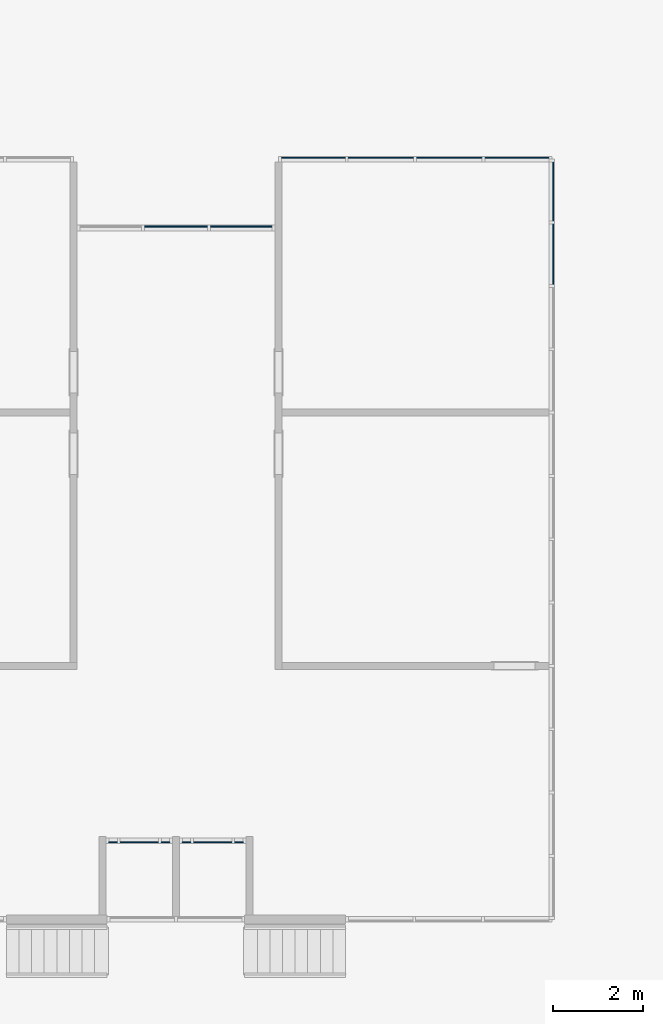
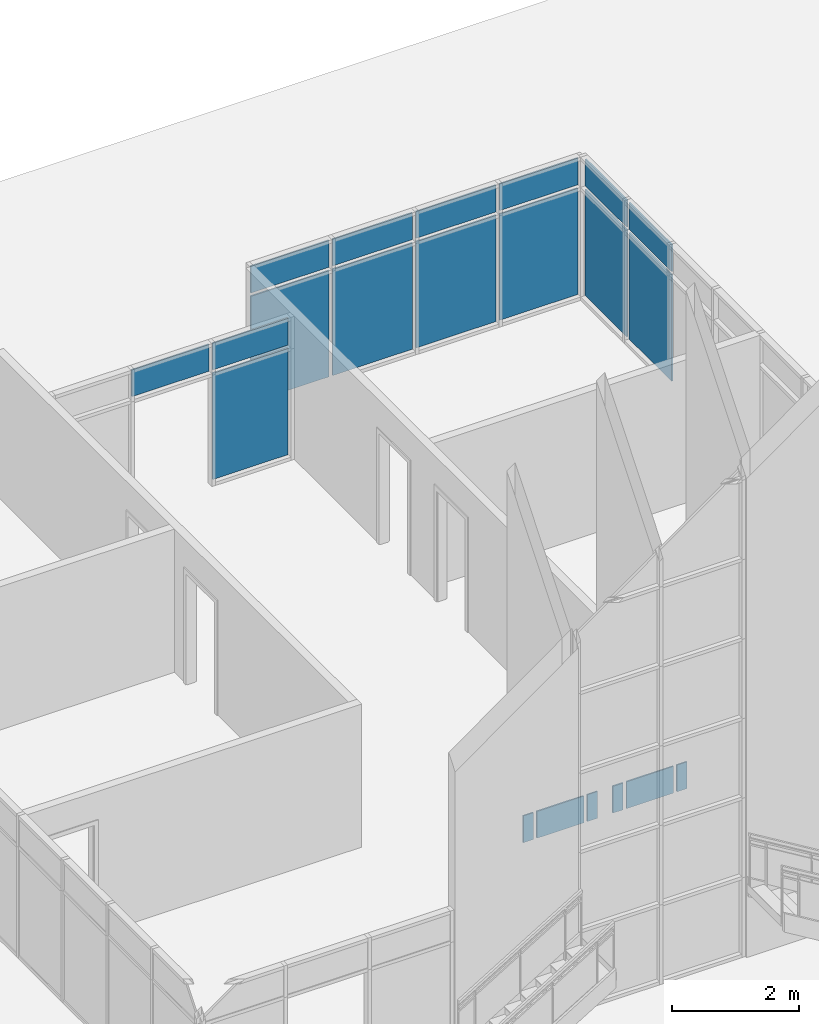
# One storey, part 9 of 12: 21 plates, 5 elements without a shape of their own.
"""IFC2X3 building model written with IfcOpenShell, lengths in feet."""

from ifc_helpers import new_model, entity, si_unit, converted_unit, derived_unit, direction, frame, frame_2d, origin, place, context, subcontext, project, spatial, rectangle, extrude, source, transform, mapped, material, layer, layer_set, layer_usage, type_object, type_shapes, element, aggregate, save


model = new_model("IFC2X3")

# Units and contexts
model_context = context("Model", 3, precision=0.0001, world=origin(), true_north=direction((6.12303176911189e-17, 1.0)))
body_context = subcontext(model_context, "Body", "Model", "MODEL_VIEW")
ifc_project = project(units=[converted_unit("LENGTHUNIT", "FOOT", entity("IfcRatioMeasure", 0.3048), si_unit("LENGTHUNIT", "METRE"), dimensions=[1, 0, 0, 0, 0, 0, 0]), converted_unit("AREAUNIT", "SQUARE FOOT", entity("IfcRatioMeasure", 0.09290304), si_unit("AREAUNIT", "SQUARE_METRE"), dimensions=[2, 0, 0, 0, 0, 0, 0]), converted_unit("VOLUMEUNIT", "CUBIC FOOT", entity("IfcRatioMeasure", 0.028316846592), si_unit("VOLUMEUNIT", "CUBIC_METRE"), dimensions=[3, 0, 0, 0, 0, 0, 0]), converted_unit("PLANEANGLEUNIT", "DEGREE", entity("IfcRatioMeasure", 0.0174532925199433), si_unit("PLANEANGLEUNIT", "RADIAN"), dimensions=[0, 0, 0, 0, 0, 0, 0]), si_unit("MASSUNIT", "GRAM", prefix="KILO"), derived_unit("MASSDENSITYUNIT", [(si_unit("MASSUNIT", "GRAM", prefix="KILO"), 1), (si_unit("LENGTHUNIT", "METRE"), -3)]), si_unit("TIMEUNIT", "SECOND"), si_unit("FREQUENCYUNIT", "HERTZ"), si_unit("THERMODYNAMICTEMPERATUREUNIT", "DEGREE_CELSIUS"), derived_unit("THERMALTRANSMITTANCEUNIT", [(si_unit("MASSUNIT", "GRAM", prefix="KILO"), 1), (si_unit("THERMODYNAMICTEMPERATUREUNIT", "KELVIN"), -1), (si_unit("TIMEUNIT", "SECOND"), -3)]), derived_unit("VOLUMETRICFLOWRATEUNIT", [(si_unit("LENGTHUNIT", "METRE"), 3), (si_unit("TIMEUNIT", "SECOND"), -1)]), si_unit("ELECTRICCURRENTUNIT", "AMPERE"), si_unit("ELECTRICVOLTAGEUNIT", "VOLT"), si_unit("POWERUNIT", "WATT"), si_unit("FORCEUNIT", "NEWTON"), si_unit("ILLUMINANCEUNIT", "LUX"), si_unit("LUMINOUSFLUXUNIT", "LUMEN"), si_unit("LUMINOUSINTENSITYUNIT", "CANDELA"), derived_unit("USERDEFINED", [(si_unit("MASSUNIT", "GRAM", prefix="KILO"), -1), (si_unit("LENGTHUNIT", "METRE"), -2), (si_unit("TIMEUNIT", "SECOND"), 3), (si_unit("LUMINOUSFLUXUNIT", "LUMEN"), 1)]), derived_unit("LINEARVELOCITYUNIT", [(si_unit("LENGTHUNIT", "METRE"), 1), (si_unit("TIMEUNIT", "SECOND"), -1)]), si_unit("PRESSUREUNIT", "PASCAL"), derived_unit("USERDEFINED", [(si_unit("LENGTHUNIT", "METRE"), -2), (si_unit("MASSUNIT", "GRAM", prefix="KILO"), 1), (si_unit("TIMEUNIT", "SECOND"), -2)])], contexts=[model_context])

# Site, building, storey
site_placement = place(None, origin())
site = spatial("IfcSite", under=ifc_project, at=site_placement, Name="Default", CompositionType="ELEMENT")
building_placement = place(site_placement, origin())
building = spatial("IfcBuilding", under=site, at=building_placement, CompositionType="ELEMENT")
storey_placement = place(building_placement, origin())
storey = spatial("IfcBuildingStorey", under=building, at=storey_placement, Name="Level 1", CompositionType="ELEMENT", Elevation=0.0)

# Curtain wall, plates
curtain_wall_type = type_object("IfcCurtainWallType", Name="Curtain Wall:Storefront 2", PredefinedType="NOTDEFINED")
curtain_wall_1_placement = place(storey_placement, origin())
curtain_wall_1 = element("IfcCurtainWall", 1, at=curtain_wall_1_placement, inside=storey, type_object=curtain_wall_type, Name="Curtain Wall:Storefront 2", ObjectType="Curtain Wall:Storefront 2")
ifc_material = material(Name="<Unnamed>")
ifc_layer = layer(ifc_material, 0.0833333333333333)
ifc_layer_set = layer_set([ifc_layer], Name="Curtain Wall:Storefront")
ifc_layer_usage_1 = layer_usage(ifc_layer_set, "AXIS3", "POSITIVE", 0.104166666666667)
plate_type_1 = type_object("IfcPlateType", Name="Glazed", PredefinedType="CURTAIN_PANEL", material=ifc_layer_set)
shared_shape_1 = source(origin(), body_context, "Body", "SweptSolid", [
    extrude(rectangle(XDim=0.0833333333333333, YDim=0.604166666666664, at=frame_2d((-6.93889390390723e-18, -2.77555756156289e-17), x_axis=(1.0, 0.0))), frame((0.0, 0.104166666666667, 0.0), z_axis=(0.0, 0.0, 1.0), x_axis=(0.0, 1.0, 0.0)), (0.0, 0.0, 1.0), 1.6875),
])
type_shapes(plate_type_1, [shared_shape_1])
plate_1_placement = place(curtain_wall_1_placement, frame((-34.7522461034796, -1.23280792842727, 7.10416666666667), z_axis=(0.0, 0.0, 1.0), x_axis=(-1.0, 0.0, 0.0)))
plate_1 = element("IfcPlate", 2, at=plate_1_placement, type_object=plate_type_1, material=ifc_layer_usage_1, Name="System Panel:Glazed", ObjectType="Glazed", context=body_context, shape_type="MappedRepresentation", body=[
    mapped(shared_shape_1, transform((0.0, 0.0, 0.0), scale=1.0)),
])
ifc_layer_usage_2 = layer_usage(ifc_layer_set, "AXIS3", "POSITIVE", 0.104166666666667)
plate_2_placement = place(curtain_wall_1_placement, frame((-38.5647461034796, -1.23280792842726, 7.10416666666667), z_axis=(0.0, 0.0, 1.0), x_axis=(-1.0, 0.0, 0.0)))
plate_2 = element("IfcPlate", 3, at=plate_2_placement, type_object=plate_type_1, material=ifc_layer_usage_2, Name="System Panel:Glazed", ObjectType="Glazed", context=body_context, shape_type="MappedRepresentation", body=[
    mapped(shared_shape_1, transform((0.0, 0.0, 0.0), scale=1.0)),
])

curtain_wall_2_placement = place(storey_placement, origin())
curtain_wall_2 = element("IfcCurtainWall", 4, at=curtain_wall_2_placement, inside=storey, type_object=curtain_wall_type, Name="Curtain Wall:Storefront 2", ObjectType="Curtain Wall:Storefront 2")
ifc_layer_usage_3 = layer_usage(ifc_layer_set, "AXIS3", "POSITIVE", 0.104166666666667)
plate_3_placement = place(curtain_wall_2_placement, frame((-29.4189127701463, -1.23280792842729, 7.10416666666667), z_axis=(0.0, 0.0, 1.0), x_axis=(-1.0, 0.0, 0.0)))
plate_3 = element("IfcPlate", 5, at=plate_3_placement, type_object=plate_type_1, material=ifc_layer_usage_3, Name="System Panel:Glazed", ObjectType="Glazed", context=body_context, shape_type="MappedRepresentation", body=[
    mapped(shared_shape_1, transform((0.0, 0.0, 0.0), scale=1.0)),
])
ifc_layer_usage_4 = layer_usage(ifc_layer_set, "AXIS3", "POSITIVE", 0.104166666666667)
plate_4_placement = place(curtain_wall_2_placement, frame((-33.2314127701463, -1.23280792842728, 7.10416666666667), z_axis=(0.0, 0.0, 1.0), x_axis=(-1.0, 0.0, 0.0)))
plate_4 = element("IfcPlate", 6, at=plate_4_placement, type_object=plate_type_1, material=ifc_layer_usage_4, Name="System Panel:Glazed", ObjectType="Glazed", context=body_context, shape_type="MappedRepresentation", body=[
    mapped(shared_shape_1, transform((0.0, 0.0, 0.0), scale=1.0)),
])

# Plate
ifc_layer_usage_5 = layer_usage(ifc_layer_set, "AXIS3", "POSITIVE", 0.104166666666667)
plate_type_2 = type_object("IfcPlateType", Name="Glazed", PredefinedType="CURTAIN_PANEL", material=ifc_layer_set)
shared_shape_2 = source(origin(), body_context, "Body", "SweptSolid", [
    extrude(rectangle(XDim=0.0833333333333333, YDim=2.79166666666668, at=frame_2d((-6.93889390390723e-18, 0.0), x_axis=(1.0, 0.0))), frame((0.0, 0.104166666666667, 0.0), z_axis=(0.0, 0.0, 1.0), x_axis=(0.0, 1.0, 0.0)), (0.0, 0.0, 1.0), 1.6875),
])
type_shapes(plate_type_2, [shared_shape_2])
plate_5_placement = place(curtain_wall_1_placement, frame((-36.6584961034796, -1.23280792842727, 7.10416666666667), z_axis=(0.0, 0.0, 1.0), x_axis=(-1.0, 0.0, 0.0)))
plate_5 = element("IfcPlate", 7, at=plate_5_placement, type_object=plate_type_2, material=ifc_layer_usage_5, Name="System Panel:Glazed", ObjectType="Glazed", context=body_context, shape_type="MappedRepresentation", body=[
    mapped(shared_shape_2, transform((0.0, 0.0, 0.0), scale=1.0)),
])

aggregate(curtain_wall_1, [plate_1, plate_5, plate_2])

ifc_layer_usage_6 = layer_usage(ifc_layer_set, "AXIS3", "POSITIVE", 0.104166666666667)
plate_6_placement = place(curtain_wall_2_placement, frame((-31.3251627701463, -1.23280792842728, 7.10416666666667), z_axis=(0.0, 0.0, 1.0), x_axis=(-1.0, 0.0, 0.0)))
plate_6 = element("IfcPlate", 8, at=plate_6_placement, type_object=plate_type_2, material=ifc_layer_usage_6, Name="System Panel:Glazed", ObjectType="Glazed", context=body_context, shape_type="MappedRepresentation", body=[
    mapped(shared_shape_2, transform((0.0, 0.0, 0.0), scale=1.0)),
])

aggregate(curtain_wall_2, [plate_3, plate_6, plate_4])

# Curtain wall, plates
curtain_wall_3_placement = place(storey_placement, origin())
curtain_wall_3 = element("IfcCurtainWall", 9, at=curtain_wall_3_placement, inside=storey, type_object=curtain_wall_type, Name="Curtain Wall:Storefront 2", ObjectType="Curtain Wall:Storefront 2")
ifc_layer_usage_7 = layer_usage(ifc_layer_set, "AXIS3", "POSITIVE", 0.104166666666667)
plate_type_3 = type_object("IfcPlateType", Name="Glazed", PredefinedType="CURTAIN_PANEL", material=ifc_layer_set)
shared_shape_3 = source(origin(), body_context, "Body", "SweptSolid", [
    extrude(rectangle(XDim=0.0833333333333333, YDim=4.29513888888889, at=frame_2d((-6.93889390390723e-18, 0.0), x_axis=(1.0, 0.0))), frame((0.0, 0.104166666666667, 0.0), z_axis=(0.0, 0.0, 1.0), x_axis=(0.0, 1.0, 0.0)), (0.0, 0.0, 1.0), 6.6875),
])
type_shapes(plate_type_3, [shared_shape_3])
plate_7_placement = place(curtain_wall_3_placement, frame((-6.65849610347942, 45.9946226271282, 0.208333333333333), z_axis=(0.0, 0.0, 1.0), x_axis=(0.0, -1.0, 0.0)))
plate_7 = element("IfcPlate", 10, at=plate_7_placement, type_object=plate_type_3, material=ifc_layer_usage_7, Name="System Panel:Glazed", ObjectType="Glazed", context=body_context, shape_type="MappedRepresentation", body=[
    mapped(shared_shape_3, transform((0.0, 0.0, 0.0), scale=1.0)),
])
ifc_layer_usage_8 = layer_usage(ifc_layer_set, "AXIS3", "POSITIVE", 0.104166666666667)
plate_type_4 = type_object("IfcPlateType", Name="Glazed", PredefinedType="CURTAIN_PANEL", material=ifc_layer_set)
shared_shape_4 = source(origin(), body_context, "Body", "SweptSolid", [
    extrude(rectangle(XDim=0.0833333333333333, YDim=4.39930555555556, at=frame_2d((-6.93889390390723e-18, 0.0), x_axis=(1.0, 0.0))), frame((0.0, 0.104166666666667, 0.0), z_axis=(0.0, 0.0, 1.0), x_axis=(0.0, 1.0, 0.0)), (0.0, 0.0, 1.0), 6.6875),
])
type_shapes(plate_type_4, [shared_shape_4])
plate_8_placement = place(curtain_wall_3_placement, frame((-6.65849610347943, 41.4390670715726, 0.208333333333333), z_axis=(0.0, 0.0, 1.0), x_axis=(0.0, -1.0, 0.0)))
plate_8 = element("IfcPlate", 11, at=plate_8_placement, type_object=plate_type_4, material=ifc_layer_usage_8, Name="System Panel:Glazed", ObjectType="Glazed", context=body_context, shape_type="MappedRepresentation", body=[
    mapped(shared_shape_4, transform((0.0, 0.0, 0.0), scale=1.0)),
])
ifc_layer_usage_9 = layer_usage(ifc_layer_set, "AXIS3", "POSITIVE", 0.104166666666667)
plate_type_5 = type_object("IfcPlateType", Name="Glazed", PredefinedType="CURTAIN_PANEL", material=ifc_layer_set)
shared_shape_5 = source(origin(), body_context, "Body", "SweptSolid", [
    extrude(rectangle(XDim=0.0833333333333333, YDim=4.29513888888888, at=frame_2d((-6.93889390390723e-18, 0.0), x_axis=(1.0, 0.0))), frame((0.0, 0.104166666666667, 0.0), z_axis=(0.0, 0.0, 1.0), x_axis=(0.0, 1.0, 0.0)), (0.0, 0.0, 1.0), 1.6875),
])
type_shapes(plate_type_5, [shared_shape_5])
plate_9_placement = place(curtain_wall_3_placement, frame((-6.65849610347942, 45.9946226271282, 7.10416666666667), z_axis=(0.0, 0.0, 1.0), x_axis=(0.0, -1.0, 0.0)))
plate_9 = element("IfcPlate", 12, at=plate_9_placement, type_object=plate_type_5, material=ifc_layer_usage_9, Name="System Panel:Glazed", ObjectType="Glazed", context=body_context, shape_type="MappedRepresentation", body=[
    mapped(shared_shape_5, transform((0.0, 0.0, 0.0), scale=1.0)),
])
ifc_layer_usage_10 = layer_usage(ifc_layer_set, "AXIS3", "POSITIVE", 0.104166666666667)
plate_type_6 = type_object("IfcPlateType", Name="Glazed", PredefinedType="CURTAIN_PANEL", material=ifc_layer_set)
shared_shape_6 = source(origin(), body_context, "Body", "SweptSolid", [
    extrude(rectangle(XDim=0.0833333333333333, YDim=4.39930555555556, at=frame_2d((-6.93889390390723e-18, 0.0), x_axis=(1.0, 0.0))), frame((0.0, 0.104166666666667, 0.0), z_axis=(0.0, 0.0, 1.0), x_axis=(0.0, 1.0, 0.0)), (0.0, 0.0, 1.0), 1.6875),
])
type_shapes(plate_type_6, [shared_shape_6])
plate_10_placement = place(curtain_wall_3_placement, frame((-6.65849610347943, 41.4390670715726, 7.10416666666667), z_axis=(0.0, 0.0, 1.0), x_axis=(0.0, -1.0, 0.0)))
plate_10 = element("IfcPlate", 13, at=plate_10_placement, type_object=plate_type_6, material=ifc_layer_usage_10, Name="System Panel:Glazed", ObjectType="Glazed", context=body_context, shape_type="MappedRepresentation", body=[
    mapped(shared_shape_6, transform((0.0, 0.0, 0.0), scale=1.0)),
])
aggregate(curtain_wall_3, [plate_7, plate_8, plate_9, plate_10])

curtain_wall_4_placement = place(storey_placement, origin())
curtain_wall_4 = element("IfcCurtainWall", 14, at=curtain_wall_4_placement, inside=storey, type_object=curtain_wall_type, Name="Curtain Wall:Storefront 2", ObjectType="Curtain Wall:Storefront 2")
ifc_layer_usage_11 = layer_usage(ifc_layer_set, "AXIS3", "POSITIVE", 0.104166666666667)
plate_type_7 = type_object("IfcPlateType", Name="Glazed", PredefinedType="CURTAIN_PANEL", material=ifc_layer_set)
shared_shape_7 = source(origin(), body_context, "Body", "SweptSolid", [
    extrude(rectangle(XDim=0.0833333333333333, YDim=4.65719696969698, at=frame_2d((-6.93889390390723e-18, 0.0), x_axis=(1.0, 0.0))), frame((0.0, 0.104166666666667, 0.0), z_axis=(0.0, 0.0, 1.0), x_axis=(0.0, 1.0, 0.0)), (0.0, 0.0, 1.0), 6.6875),
])
type_shapes(plate_type_7, [shared_shape_7])
plate_11_placement = place(curtain_wall_4_placement, frame((-24.0003521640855, 48.350525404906, 0.208333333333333)))
plate_11 = element("IfcPlate", 15, at=plate_11_placement, type_object=plate_type_7, material=ifc_layer_usage_11, Name="System Panel:Glazed", ObjectType="Glazed", context=body_context, shape_type="MappedRepresentation", body=[
    mapped(shared_shape_7, transform((0.0, 0.0, 0.0), scale=1.0)),
])
ifc_layer_usage_12 = layer_usage(ifc_layer_set, "AXIS3", "POSITIVE", 0.104166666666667)
plate_12_placement = place(curtain_wall_4_placement, frame((-9.19542792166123, 48.350525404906, 0.208333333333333)))
plate_12 = element("IfcPlate", 16, at=plate_12_placement, type_object=plate_type_7, material=ifc_layer_usage_12, Name="System Panel:Glazed", ObjectType="Glazed", context=body_context, shape_type="MappedRepresentation", body=[
    mapped(shared_shape_7, transform((0.0, 0.0, 0.0), scale=1.0)),
])
ifc_layer_usage_13 = layer_usage(ifc_layer_set, "AXIS3", "POSITIVE", 0.104166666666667)
plate_type_8 = type_object("IfcPlateType", Name="Glazed", PredefinedType="CURTAIN_PANEL", material=ifc_layer_set)
shared_shape_8 = source(origin(), body_context, "Body", "SweptSolid", [
    extrude(rectangle(XDim=0.0833333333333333, YDim=4.76136363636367, at=frame_2d((-6.93889390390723e-18, 0.0), x_axis=(1.0, 0.0))), frame((0.0, 0.104166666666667, 0.0), z_axis=(0.0, 0.0, 1.0), x_axis=(0.0, 1.0, 0.0)), (0.0, 0.0, 1.0), 6.6875),
])
type_shapes(plate_type_8, [shared_shape_8])
plate_13_placement = place(curtain_wall_4_placement, frame((-19.0827385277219, 48.350525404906, 0.208333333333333)))
plate_13 = element("IfcPlate", 17, at=plate_13_placement, type_object=plate_type_8, material=ifc_layer_usage_13, Name="System Panel:Glazed", ObjectType="Glazed", context=body_context, shape_type="MappedRepresentation", body=[
    mapped(shared_shape_8, transform((0.0, 0.0, 0.0), scale=1.0)),
])
ifc_layer_usage_14 = layer_usage(ifc_layer_set, "AXIS3", "POSITIVE", 0.104166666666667)
plate_14_placement = place(curtain_wall_4_placement, frame((-14.1130415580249, 48.350525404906, 0.208333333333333)))
plate_14 = element("IfcPlate", 18, at=plate_14_placement, type_object=plate_type_8, material=ifc_layer_usage_14, Name="System Panel:Glazed", ObjectType="Glazed", context=body_context, shape_type="MappedRepresentation", body=[
    mapped(shared_shape_8, transform((0.0, 0.0, 0.0), scale=1.0)),
])
ifc_layer_usage_15 = layer_usage(ifc_layer_set, "AXIS3", "POSITIVE", 0.104166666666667)
plate_type_9 = type_object("IfcPlateType", Name="Glazed", PredefinedType="CURTAIN_PANEL", material=ifc_layer_set)
shared_shape_9 = source(origin(), body_context, "Body", "SweptSolid", [
    extrude(rectangle(XDim=0.0833333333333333, YDim=4.65719696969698, at=frame_2d((-6.93889390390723e-18, 0.0), x_axis=(1.0, 0.0))), frame((0.0, 0.104166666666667, 0.0), z_axis=(0.0, 0.0, 1.0), x_axis=(0.0, 1.0, 0.0)), (0.0, 0.0, 1.0), 1.6875),
])
type_shapes(plate_type_9, [shared_shape_9])
plate_15_placement = place(curtain_wall_4_placement, frame((-24.0003521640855, 48.350525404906, 7.10416666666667)))
plate_15 = element("IfcPlate", 19, at=plate_15_placement, type_object=plate_type_9, material=ifc_layer_usage_15, Name="System Panel:Glazed", ObjectType="Glazed", context=body_context, shape_type="MappedRepresentation", body=[
    mapped(shared_shape_9, transform((0.0, 0.0, 0.0), scale=1.0)),
])
ifc_layer_usage_16 = layer_usage(ifc_layer_set, "AXIS3", "POSITIVE", 0.104166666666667)
plate_16_placement = place(curtain_wall_4_placement, frame((-9.19542792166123, 48.350525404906, 7.10416666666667)))
plate_16 = element("IfcPlate", 20, at=plate_16_placement, type_object=plate_type_9, material=ifc_layer_usage_16, Name="System Panel:Glazed", ObjectType="Glazed", context=body_context, shape_type="MappedRepresentation", body=[
    mapped(shared_shape_9, transform((0.0, 0.0, 0.0), scale=1.0)),
])
ifc_layer_usage_17 = layer_usage(ifc_layer_set, "AXIS3", "POSITIVE", 0.104166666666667)
plate_type_10 = type_object("IfcPlateType", Name="Glazed", PredefinedType="CURTAIN_PANEL", material=ifc_layer_set)
shared_shape_10 = source(origin(), body_context, "Body", "SweptSolid", [
    extrude(rectangle(XDim=0.0833333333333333, YDim=4.76136363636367, at=frame_2d((-6.93889390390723e-18, 0.0), x_axis=(1.0, 0.0))), frame((0.0, 0.104166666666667, 0.0), z_axis=(0.0, 0.0, 1.0), x_axis=(0.0, 1.0, 0.0)), (0.0, 0.0, 1.0), 1.6875),
])
type_shapes(plate_type_10, [shared_shape_10])
plate_17_placement = place(curtain_wall_4_placement, frame((-19.0827385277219, 48.350525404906, 7.10416666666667)))
plate_17 = element("IfcPlate", 21, at=plate_17_placement, type_object=plate_type_10, material=ifc_layer_usage_17, Name="System Panel:Glazed", ObjectType="Glazed", context=body_context, shape_type="MappedRepresentation", body=[
    mapped(shared_shape_10, transform((0.0, 0.0, 0.0), scale=1.0)),
])
ifc_layer_usage_18 = layer_usage(ifc_layer_set, "AXIS3", "POSITIVE", 0.104166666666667)
plate_18_placement = place(curtain_wall_4_placement, frame((-14.1130415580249, 48.350525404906, 7.10416666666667)))
plate_18 = element("IfcPlate", 22, at=plate_18_placement, type_object=plate_type_10, material=ifc_layer_usage_18, Name="System Panel:Glazed", ObjectType="Glazed", context=body_context, shape_type="MappedRepresentation", body=[
    mapped(shared_shape_10, transform((0.0, 0.0, 0.0), scale=1.0)),
])
aggregate(curtain_wall_4, [plate_11, plate_13, plate_14, plate_12, plate_15, plate_17, plate_18, plate_16])

curtain_wall_5_placement = place(storey_placement, origin())
curtain_wall_5 = element("IfcCurtainWall", 23, at=curtain_wall_5_placement, inside=storey, type_object=curtain_wall_type, Name="Curtain Wall:Storefront 2", ObjectType="Curtain Wall:Storefront 2")
ifc_layer_usage_19 = layer_usage(ifc_layer_set, "AXIS3", "POSITIVE", 0.104166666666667)
plate_type_11 = type_object("IfcPlateType", Name="Glazed", PredefinedType="CURTAIN_PANEL", material=ifc_layer_set)
shared_shape_11 = source(origin(), body_context, "Body", "SweptSolid", [
    extrude(rectangle(XDim=0.0833333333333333, YDim=4.49053030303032, at=frame_2d((-6.93889390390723e-18, 0.0), x_axis=(1.0, 0.0))), frame((0.0, 0.104166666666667, 0.0), z_axis=(0.0, 0.0, 1.0), x_axis=(0.0, 1.0, 0.0)), (0.0, 0.0, 1.0), 6.6875),
])
type_shapes(plate_type_11, [shared_shape_11])
plate_19_placement = place(curtain_wall_5_placement, frame((-29.2408824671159, 43.350525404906, 0.208333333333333)))
plate_19 = element("IfcPlate", 24, at=plate_19_placement, type_object=plate_type_11, material=ifc_layer_usage_19, Name="System Panel:Glazed", ObjectType="Glazed", context=body_context, shape_type="MappedRepresentation", body=[
    mapped(shared_shape_11, transform((0.0, 0.0, 0.0), scale=1.0)),
])
ifc_layer_usage_20 = layer_usage(ifc_layer_set, "AXIS3", "POSITIVE", 0.104166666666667)
plate_type_12 = type_object("IfcPlateType", Name="Glazed", PredefinedType="CURTAIN_PANEL", material=ifc_layer_set)
shared_shape_12 = source(origin(), body_context, "Body", "SweptSolid", [
    extrude(rectangle(XDim=0.0833333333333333, YDim=4.49053030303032, at=frame_2d((-6.93889390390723e-18, 0.0), x_axis=(1.0, 0.0))), frame((0.0, 0.104166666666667, 0.0), z_axis=(0.0, 0.0, 1.0), x_axis=(0.0, 1.0, 0.0)), (0.0, 0.0, 1.0), 1.6875),
])
type_shapes(plate_type_12, [shared_shape_12])
plate_20_placement = place(curtain_wall_5_placement, frame((-29.2408824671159, 43.350525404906, 7.10416666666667)))
plate_20 = element("IfcPlate", 25, at=plate_20_placement, type_object=plate_type_12, material=ifc_layer_usage_20, Name="System Panel:Glazed", ObjectType="Glazed", context=body_context, shape_type="MappedRepresentation", body=[
    mapped(shared_shape_12, transform((0.0, 0.0, 0.0), scale=1.0)),
])
ifc_layer_usage_21 = layer_usage(ifc_layer_set, "AXIS3", "POSITIVE", 0.104166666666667)
plate_type_13 = type_object("IfcPlateType", Name="Glazed", PredefinedType="CURTAIN_PANEL", material=ifc_layer_set)
shared_shape_13 = source(origin(), body_context, "Body", "SweptSolid", [
    extrude(rectangle(XDim=0.0833333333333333, YDim=4.59469696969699, at=frame_2d((-6.93889390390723e-18, 0.0), x_axis=(1.0, 0.0))), frame((0.0, 0.104166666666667, 0.0), z_axis=(0.0, 0.0, 1.0), x_axis=(0.0, 1.0, 0.0)), (0.0, 0.0, 1.0), 1.6875),
])
type_shapes(plate_type_13, [shared_shape_13])
plate_21_placement = place(curtain_wall_5_placement, frame((-33.9918294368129, 43.350525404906, 7.10416666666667)))
plate_21 = element("IfcPlate", 26, at=plate_21_placement, type_object=plate_type_13, material=ifc_layer_usage_21, Name="System Panel:Glazed", ObjectType="Glazed", context=body_context, shape_type="MappedRepresentation", body=[
    mapped(shared_shape_13, transform((0.0, 0.0, 0.0), scale=1.0)),
])
aggregate(curtain_wall_5, [plate_19, plate_21, plate_20])

save(model, "model.ifc")
